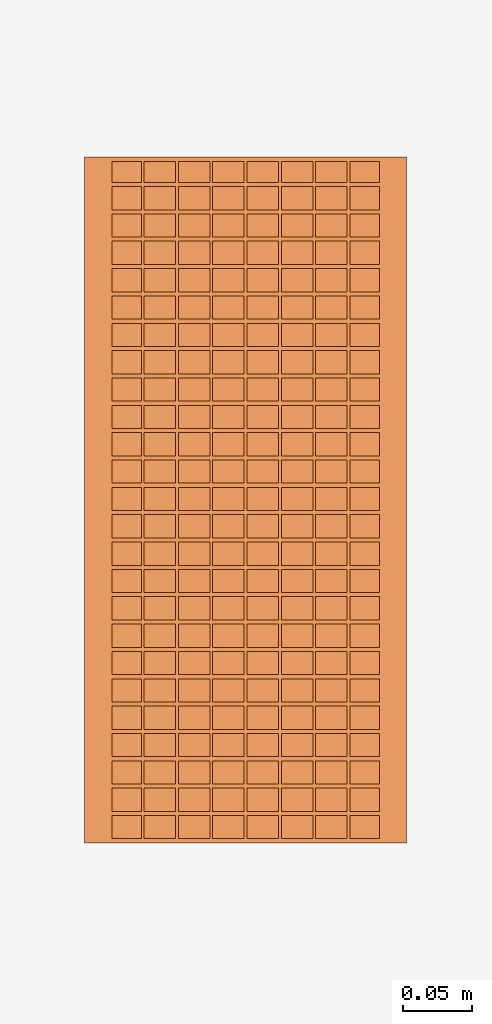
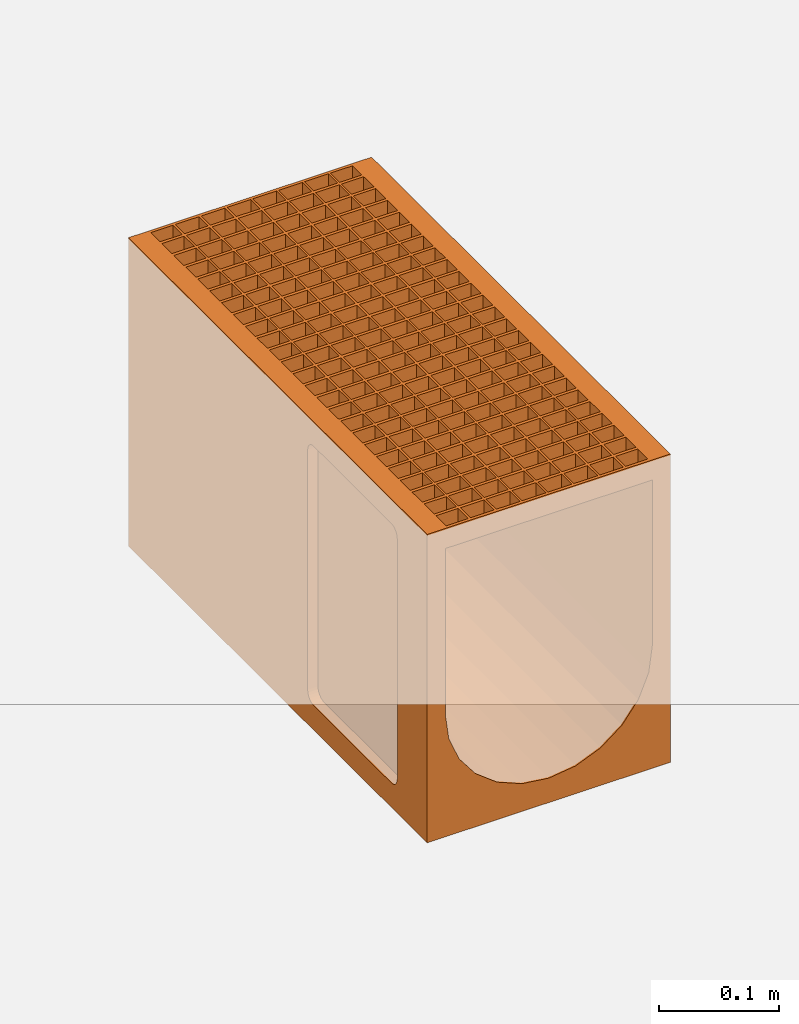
# One storey, part 2 of 2: 1 proxy.
"""IFC2X3 building model written with IfcOpenShell, lengths in millimetres."""

from ifc_helpers import new_model, entity, si_unit, converted_unit, direction, frame, origin, place, context, subcontext, project, spatial, faceted_brep, source, transform, mapped, material, material_list, element, save


model = new_model("IFC2X3")

# Units and contexts
model_context = context("Model", 3, precision=1e-06, world=origin(), true_north=direction((2.0, 6.12303176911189e-17, 1.0)))
context_of_model = context(None, 3, precision=1e-06, world=origin(), true_north=direction((2.0, 6.12303176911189e-17, 1.0)))
body_context = subcontext(model_context, "Body", "Model", "MODEL_VIEW")
ifc_project = project(units=[si_unit("LENGTHUNIT", "METRE", prefix="MILLI"), si_unit("AREAUNIT", "SQUARE_METRE", prefix="MILLI"), si_unit("VOLUMEUNIT", "CUBIC_METRE", prefix="MILLI"), converted_unit("PLANEANGLEUNIT", "DEGREE", entity("IfcRatioMeasure", 0.0174532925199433), si_unit("PLANEANGLEUNIT", "RADIAN"), dimensions=[0, 0, 0, 0, 0, 0, 0]), si_unit("TIMEUNIT", "SECOND")], contexts=[model_context, context_of_model])

# Site, building, storey
site_placement = place(None, origin())
site = spatial("IfcSite", under=ifc_project, at=site_placement, Name="Default", CompositionType="ELEMENT")
building_placement = place(site_placement, origin())
building = spatial("IfcBuilding", under=site, at=building_placement, CompositionType="ELEMENT")
storey_placement = place(building_placement, origin())
storey = spatial("IfcBuildingStorey", under=building, at=storey_placement, Name="Level 1", CompositionType="ELEMENT", Elevation=0.0)

# Proxy
ifc_material = material(Name="Vienite® Synthetic Resin Concrete")
ifc_material_list = material_list([ifc_material])
shared_shape = source(origin(), body_context, "Body", "Brep", [
    faceted_brep([(-97.5000000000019, 497.0, 0.0), (97.4999999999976, 497.0, 0.0), (97.4999999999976, 500.0, 0.0), (-97.5000000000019, 500.0, 0.0), (-97.5000000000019, 500.0, -20.5000000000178), (97.4999999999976, 500.0, -20.5000000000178), (97.4999999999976, 497.0, -20.5000000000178), (-97.5000000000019, 497.0, -20.5000000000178)], [[[0, 1, 2, 3]], [[4, 5, 6, 7]], [[2, 1, 6, 5]], [[4, 3, 2, 5]], [[0, 3, 4, 7]], [[6, 1, 0, 7]]]),
    faceted_brep([(-97.5000000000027, 3.0, -20.5000000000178), (97.4999999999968, 3.0, -20.5000000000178), (97.4999999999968, 0.0, -20.5000000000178), (-97.5000000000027, 0.0, -20.5000000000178), (-97.5000000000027, 0.0, 0.0), (97.4999999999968, 0.0, 0.0), (97.4999999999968, 3.0, 0.0), (-97.5000000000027, 3.0, 0.0)], [[[0, 1, 2, 3]], [[4, 5, 6, 7]], [[6, 5, 2, 1]], [[3, 4, 7, 0]], [[2, 5, 4, 3]], [[0, 7, 6, 1]]]),
    faceted_brep([(-97.5000000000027, 19.9400000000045, 0.0), (97.4999999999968, 19.9400000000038, 0.0), (97.4999999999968, 22.9400000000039, 0.0), (-97.5000000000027, 22.9400000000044, 0.0), (-97.5000000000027, 22.9400000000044, -20.5000000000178), (97.4999999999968, 22.9400000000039, -20.5000000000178), (97.4999999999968, 19.9400000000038, -20.5000000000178), (-97.5000000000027, 19.9400000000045, -20.5000000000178)], [[[0, 1, 2, 3]], [[4, 5, 6, 7]], [[2, 1, 6, 5]], [[4, 3, 2, 5]], [[7, 0, 3, 4]], [[6, 1, 0, 7]]]),
    faceted_brep([(-97.5000000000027, 39.8800000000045, 0.0), (97.4999999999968, 39.8800000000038, 0.0), (97.4999999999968, 42.8800000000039, 0.0), (-97.5000000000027, 42.8800000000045, 0.0), (-97.5000000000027, 42.8800000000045, -20.5000000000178), (97.4999999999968, 42.8800000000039, -20.5000000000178), (97.4999999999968, 39.8800000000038, -20.5000000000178), (-97.5000000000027, 39.8800000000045, -20.5000000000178)], [[[0, 1, 2, 3]], [[4, 5, 6, 7]], [[2, 1, 6, 5]], [[4, 3, 2, 5]], [[7, 0, 3, 4]], [[6, 1, 0, 7]]]),
    faceted_brep([(-97.5000000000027, 59.8200000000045, 0.0), (97.4999999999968, 59.8200000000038, 0.0), (97.4999999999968, 62.8200000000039, 0.0), (-97.5000000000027, 62.8200000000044, 0.0), (-97.5000000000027, 62.8200000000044, -20.5000000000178), (97.4999999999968, 62.8200000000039, -20.5000000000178), (97.4999999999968, 59.8200000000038, -20.5000000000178), (-97.5000000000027, 59.8200000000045, -20.5000000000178)], [[[0, 1, 2, 3]], [[4, 5, 6, 7]], [[2, 1, 6, 5]], [[4, 3, 2, 5]], [[7, 0, 3, 4]], [[6, 1, 0, 7]]]),
    faceted_brep([(-97.5000000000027, 79.7600000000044, 0.0), (97.4999999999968, 79.7600000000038, 0.0), (97.4999999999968, 82.7600000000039, 0.0), (-97.5000000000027, 82.7600000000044, 0.0), (-97.5000000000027, 79.7600000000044, -20.5000000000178), (-97.5000000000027, 82.7600000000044, -20.5000000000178), (97.4999999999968, 82.7600000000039, -20.5000000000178), (97.4999999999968, 79.7600000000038, -20.5000000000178)], [[[0, 1, 2, 3]], [[4, 5, 6, 7]], [[2, 1, 7, 6]], [[5, 3, 2, 6]], [[0, 3, 5, 4]], [[7, 1, 0, 4]]]),
    faceted_brep([(-97.5000000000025, 99.7000000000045, 0.0), (97.4999999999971, 99.7000000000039, 0.0), (97.4999999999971, 102.700000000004, 0.0), (-97.5000000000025, 102.700000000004, 0.0), (-97.5000000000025, 99.7000000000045, -20.5000000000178), (-97.5000000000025, 102.700000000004, -20.5000000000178), (97.4999999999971, 102.700000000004, -20.5000000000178), (97.4999999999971, 99.7000000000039, -20.5000000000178)], [[[0, 1, 2, 3]], [[4, 5, 6, 7]], [[2, 1, 7, 6]], [[5, 3, 2, 6]], [[0, 3, 5, 4]], [[7, 1, 0, 4]]]),
    faceted_brep([(-97.5000000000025, 119.640000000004, 0.0), (97.4999999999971, 119.640000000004, 0.0), (97.4999999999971, 122.640000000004, 0.0), (-97.5000000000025, 122.640000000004, 0.0), (-97.5000000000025, 119.640000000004, -20.5000000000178), (-97.5000000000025, 122.640000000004, -20.5000000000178), (97.4999999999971, 122.640000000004, -20.5000000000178), (97.4999999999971, 119.640000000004, -20.5000000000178)], [[[0, 1, 2, 3]], [[4, 5, 6, 7]], [[2, 1, 7, 6]], [[5, 3, 2, 6]], [[0, 3, 5, 4]], [[7, 1, 0, 4]]]),
    faceted_brep([(-97.5000000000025, 139.580000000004, 0.0), (97.4999999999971, 139.580000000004, 0.0), (97.4999999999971, 142.580000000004, 0.0), (-97.5000000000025, 142.580000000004, 0.0), (-97.5000000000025, 139.580000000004, -20.5000000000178), (-97.5000000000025, 142.580000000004, -20.5000000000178), (97.4999999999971, 142.580000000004, -20.5000000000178), (97.4999999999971, 139.580000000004, -20.5000000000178)], [[[0, 1, 2, 3]], [[4, 5, 6, 7]], [[2, 1, 7, 6]], [[5, 3, 2, 6]], [[0, 3, 5, 4]], [[7, 1, 0, 4]]]),
    faceted_brep([(-97.5000000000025, 159.520000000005, 0.0), (97.4999999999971, 159.520000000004, 0.0), (97.4999999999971, 162.520000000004, 0.0), (-97.5000000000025, 162.520000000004, 0.0), (-97.5000000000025, 159.520000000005, -20.5000000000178), (-97.5000000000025, 162.520000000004, -20.5000000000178), (97.4999999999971, 162.520000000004, -20.5000000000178), (97.4999999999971, 159.520000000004, -20.5000000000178)], [[[0, 1, 2, 3]], [[4, 5, 6, 7]], [[6, 2, 1, 7]], [[5, 3, 2, 6]], [[0, 3, 5, 4]], [[7, 1, 0, 4]]]),
    faceted_brep([(-97.5000000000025, 179.460000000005, 0.0), (97.4999999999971, 179.460000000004, 0.0), (97.4999999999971, 182.460000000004, 0.0), (-97.5000000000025, 182.460000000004, 0.0), (-97.5000000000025, 179.460000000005, -20.5000000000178), (-97.5000000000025, 182.460000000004, -20.5000000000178), (97.4999999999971, 182.460000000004, -20.5000000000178), (97.4999999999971, 179.460000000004, -20.5000000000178)], [[[0, 1, 2, 3]], [[4, 5, 6, 7]], [[6, 2, 1, 7]], [[5, 3, 2, 6]], [[0, 3, 5, 4]], [[7, 1, 0, 4]]]),
    faceted_brep([(-97.5000000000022, 199.400000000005, 0.0), (97.4999999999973, 199.400000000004, 0.0), (97.4999999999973, 202.400000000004, 0.0), (-97.5000000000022, 202.400000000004, 0.0), (-97.5000000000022, 199.400000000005, -20.5000000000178), (-97.5000000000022, 202.400000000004, -20.5000000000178), (97.4999999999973, 202.400000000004, -20.5000000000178), (97.4999999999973, 199.400000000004, -20.5000000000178)], [[[0, 1, 2, 3]], [[4, 5, 6, 7]], [[6, 2, 1, 7]], [[5, 3, 2, 6]], [[0, 3, 5, 4]], [[7, 1, 0, 4]]]),
    faceted_brep([(-97.5000000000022, 219.340000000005, 0.0), (97.4999999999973, 219.340000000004, 0.0), (97.4999999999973, 222.340000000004, 0.0), (-97.5000000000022, 222.340000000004, 0.0), (-97.5000000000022, 219.340000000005, -20.5000000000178), (-97.5000000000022, 222.340000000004, -20.5000000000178), (97.4999999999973, 222.340000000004, -20.5000000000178), (97.4999999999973, 219.340000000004, -20.5000000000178)], [[[0, 1, 2, 3]], [[4, 5, 6, 7]], [[6, 2, 1, 7]], [[5, 3, 2, 6]], [[0, 3, 5, 4]], [[7, 1, 0, 4]]]),
    faceted_brep([(-97.5000000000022, 239.280000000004, 0.0), (97.4999999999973, 239.280000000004, 0.0), (97.4999999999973, 242.280000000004, 0.0), (-97.5000000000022, 242.280000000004, 0.0), (-97.5000000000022, 239.280000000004, -20.5000000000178), (-97.5000000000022, 242.280000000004, -20.5000000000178), (97.4999999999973, 242.280000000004, -20.5000000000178), (97.4999999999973, 239.280000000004, -20.5000000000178)], [[[0, 1, 2, 3]], [[4, 5, 6, 7]], [[6, 2, 1, 7]], [[5, 3, 2, 6]], [[0, 3, 5, 4]], [[7, 1, 0, 4]]]),
    faceted_brep([(-97.5000000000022, 259.220000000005, 0.0), (97.4999999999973, 259.220000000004, 0.0), (97.4999999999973, 262.220000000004, 0.0), (-97.5000000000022, 262.220000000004, 0.0), (-97.5000000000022, 259.220000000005, -20.5000000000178), (-97.5000000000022, 262.220000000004, -20.5000000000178), (97.4999999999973, 262.220000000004, -20.5000000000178), (97.4999999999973, 259.220000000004, -20.5000000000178)], [[[0, 1, 2, 3]], [[4, 5, 6, 7]], [[6, 2, 1, 7]], [[5, 3, 2, 6]], [[0, 3, 5, 4]], [[7, 1, 0, 4]]]),
    faceted_brep([(-97.5000000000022, 279.160000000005, 0.0), (97.4999999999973, 279.160000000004, 0.0), (97.4999999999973, 282.160000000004, 0.0), (-97.5000000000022, 282.160000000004, 0.0), (-97.5000000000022, 279.160000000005, -20.5000000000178), (-97.5000000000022, 282.160000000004, -20.5000000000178), (97.4999999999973, 282.160000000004, -20.5000000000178), (97.4999999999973, 279.160000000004, -20.5000000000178)], [[[0, 1, 2, 3]], [[4, 5, 6, 7]], [[6, 2, 1, 7]], [[5, 3, 2, 6]], [[0, 3, 5, 4]], [[7, 1, 0, 4]]]),
    faceted_brep([(-97.5000000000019, 299.100000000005, 0.0), (97.4999999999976, 299.100000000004, 0.0), (97.4999999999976, 302.100000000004, 0.0), (-97.5000000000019, 302.100000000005, 0.0), (-97.5000000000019, 299.100000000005, -20.5000000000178), (-97.5000000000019, 302.100000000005, -20.5000000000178), (97.4999999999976, 302.100000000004, -20.5000000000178), (97.4999999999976, 299.100000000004, -20.5000000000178)], [[[0, 1, 2, 3]], [[4, 5, 6, 7]], [[6, 2, 1, 7]], [[5, 3, 2, 6]], [[0, 3, 5, 4]], [[7, 1, 0, 4]]]),
    faceted_brep([(-97.5000000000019, 319.040000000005, 0.0), (97.4999999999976, 319.040000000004, 0.0), (97.4999999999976, 322.040000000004, 0.0), (-97.5000000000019, 322.040000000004, 0.0), (-97.5000000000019, 322.040000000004, -20.5000000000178), (97.4999999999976, 322.040000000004, -20.5000000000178), (97.4999999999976, 319.040000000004, -20.5000000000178), (-97.5000000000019, 319.040000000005, -20.5000000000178)], [[[0, 1, 2, 3]], [[4, 5, 6, 7]], [[2, 1, 6, 5]], [[4, 3, 2, 5]], [[0, 3, 4, 7]], [[6, 1, 0, 7]]]),
    faceted_brep([(-97.5000000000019, 341.980000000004, -20.5000000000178), (97.4999999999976, 341.980000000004, -20.5000000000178), (97.4999999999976, 338.980000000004, -20.5000000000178), (-97.5000000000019, 338.980000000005, -20.5000000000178), (-97.5000000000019, 338.980000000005, 0.0), (97.4999999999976, 338.980000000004, 0.0), (97.4999999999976, 341.980000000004, 0.0), (-97.5000000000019, 341.980000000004, 0.0)], [[[0, 1, 2, 3]], [[4, 5, 6, 7]], [[6, 5, 2, 1]], [[0, 7, 6, 1]], [[4, 7, 0, 3]], [[2, 5, 4, 3]]]),
    faceted_brep([(-97.5000000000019, 361.920000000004, -20.5000000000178), (97.4999999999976, 361.920000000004, -20.5000000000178), (97.4999999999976, 358.920000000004, -20.5000000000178), (-97.5000000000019, 358.920000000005, -20.5000000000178), (-97.5000000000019, 358.920000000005, 0.0), (97.4999999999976, 358.920000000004, 0.0), (97.4999999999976, 361.920000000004, 0.0), (-97.5000000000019, 361.920000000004, 0.0)], [[[0, 1, 2, 3]], [[4, 5, 6, 7]], [[6, 5, 2, 1]], [[0, 7, 6, 1]], [[4, 7, 0, 3]], [[2, 5, 4, 3]]]),
    faceted_brep([(-97.5000000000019, 378.860000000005, 0.0), (97.4999999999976, 378.860000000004, 0.0), (97.4999999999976, 381.860000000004, 0.0), (-97.5000000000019, 381.860000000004, 0.0), (-97.5000000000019, 381.860000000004, -20.5000000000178), (97.4999999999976, 381.860000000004, -20.5000000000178), (97.4999999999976, 378.860000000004, -20.5000000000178), (-97.5000000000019, 378.860000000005, -20.5000000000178)], [[[0, 1, 2, 3]], [[4, 5, 6, 7]], [[2, 1, 6, 5]], [[4, 3, 2, 5]], [[0, 3, 4, 7]], [[6, 1, 0, 7]]]),
    faceted_brep([(-97.5000000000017, 401.800000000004, -20.5000000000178), (97.4999999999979, 401.800000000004, -20.5000000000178), (97.4999999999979, 398.800000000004, -20.5000000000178), (-97.5000000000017, 398.800000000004, -20.5000000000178), (-97.5000000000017, 398.800000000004, 0.0), (97.4999999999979, 398.800000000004, 0.0), (97.4999999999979, 401.800000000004, 0.0), (-97.5000000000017, 401.800000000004, 0.0)], [[[0, 1, 2, 3]], [[4, 5, 6, 7]], [[6, 5, 2, 1]], [[0, 7, 6, 1]], [[4, 7, 0, 3]], [[2, 5, 4, 3]]]),
    faceted_brep([(-97.5000000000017, 421.740000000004, -20.5000000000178), (97.4999999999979, 421.740000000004, -20.5000000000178), (97.4999999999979, 418.740000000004, -20.5000000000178), (-97.5000000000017, 418.740000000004, -20.5000000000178), (-97.5000000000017, 418.740000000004, 0.0), (97.4999999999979, 418.740000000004, 0.0), (97.4999999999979, 421.740000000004, 0.0), (-97.5000000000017, 421.740000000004, 0.0)], [[[0, 1, 2, 3]], [[4, 5, 6, 7]], [[6, 5, 2, 1]], [[0, 7, 6, 1]], [[4, 7, 0, 3]], [[2, 5, 4, 3]]]),
    faceted_brep([(-97.5000000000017, 441.680000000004, -20.5000000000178), (97.4999999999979, 441.680000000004, -20.5000000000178), (97.4999999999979, 438.680000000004, -20.5000000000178), (-97.5000000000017, 438.680000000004, -20.5000000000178), (-97.5000000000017, 438.680000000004, 0.0), (97.4999999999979, 438.680000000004, 0.0), (97.4999999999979, 441.680000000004, 0.0), (-97.5000000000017, 441.680000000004, 0.0)], [[[0, 1, 2, 3]], [[4, 5, 6, 7]], [[6, 5, 2, 1]], [[0, 7, 6, 1]], [[4, 7, 0, 3]], [[2, 5, 4, 3]]]),
    faceted_brep([(-97.5000000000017, 461.620000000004, -20.5000000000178), (97.4999999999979, 461.620000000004, -20.5000000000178), (97.4999999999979, 458.620000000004, -20.5000000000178), (-97.5000000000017, 458.620000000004, -20.5000000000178), (-97.5000000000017, 458.620000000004, 0.0), (97.4999999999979, 458.620000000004, 0.0), (97.4999999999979, 461.620000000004, 0.0), (-97.5000000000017, 461.620000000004, 0.0)], [[[0, 1, 2, 3]], [[4, 5, 6, 7]], [[6, 5, 2, 1]], [[0, 7, 6, 1]], [[4, 7, 0, 3]], [[2, 5, 4, 3]]]),
    faceted_brep([(-97.5000000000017, 481.560000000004, -20.5000000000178), (97.4999999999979, 481.560000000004, -20.5000000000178), (97.4999999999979, 478.560000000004, -20.5000000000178), (-97.5000000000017, 478.560000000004, -20.5000000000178), (-97.5000000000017, 478.560000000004, 0.0), (97.4999999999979, 478.560000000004, 0.0), (97.4999999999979, 481.560000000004, 0.0), (-97.5000000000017, 481.560000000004, 0.0)], [[[0, 1, 2, 3]], [[4, 5, 6, 7]], [[6, 5, 2, 1]], [[0, 7, 6, 1]], [[4, 7, 0, 3]], [[2, 5, 4, 3]]]),
    faceted_brep([(97.4999999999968, 0.0, 0.0), (97.4999999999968, 0.0, -20.5000000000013), (113.249999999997, 0.0, -20.5000000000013), (113.249999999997, 0.0, 0.0), (97.4999999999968, 500.0, 0.0), (113.249999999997, 500.0, 0.0), (113.249999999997, 500.0, -20.5000000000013), (97.4999999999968, 500.0, -20.5000000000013)], [[[0, 1, 2, 3]], [[4, 5, 6, 7]], [[7, 1, 0, 4]], [[2, 1, 7, 6]], [[5, 3, 2, 6]], [[0, 3, 5, 4]]]),
    faceted_brep([(-97.5000000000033, 500.0, 0.0), (-97.5000000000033, 500.0, -20.5000000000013), (-113.250000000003, 500.0, -20.5000000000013), (-113.250000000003, 500.0, 0.0), (-97.5000000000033, 0.0, 0.0), (-113.250000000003, 0.0, 0.0), (-113.250000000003, 0.0, -20.5000000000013), (-97.5000000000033, 0.0, -20.5000000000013)], [[[0, 1, 2, 3]], [[4, 5, 6, 7]], [[5, 4, 0, 3]], [[2, 6, 5, 3]], [[7, 6, 2, 1]], [[0, 4, 7, 1]]]),
    faceted_brep([(-49.0, 500.0, 0.0), (-49.0, 500.0, -20.5000000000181), (-51.0, 500.0, -20.5000000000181), (-51.0, 500.0, 0.0), (-49.0, 0.0, 0.0), (-51.0, 0.0, 0.0), (-51.0, 0.0, -20.5000000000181), (-49.0, 0.0, -20.5000000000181)], [[[0, 1, 2, 3]], [[4, 5, 6, 7]], [[1, 7, 6, 2]], [[0, 4, 7, 1]], [[3, 5, 4, 0]], [[2, 6, 5, 3]]]),
    faceted_brep([(51.0, 0.0, 0.0), (49.0, 0.0, 0.0), (49.0, 0.0, -20.5000000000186), (51.0, 0.0, -20.5000000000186), (51.0, 500.0, 0.0), (51.0, 500.0, -20.5000000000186), (49.0, 500.0, -20.5000000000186), (49.0, 500.0, 0.0)], [[[0, 1, 2, 3]], [[4, 5, 6, 7]], [[0, 3, 5, 4]], [[7, 1, 0, 4]], [[2, 1, 7, 6]], [[5, 3, 2, 6]]]),
    faceted_brep([(-24.0, 500.0, 0.0), (-24.0, 500.0, -20.5000000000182), (-26.0, 500.0, -20.5000000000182), (-26.0, 500.0, 0.0), (-24.0, 0.0, 0.0), (-26.0, 0.0, 0.0), (-26.0, 0.0, -20.5000000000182), (-24.0, 0.0, -20.5000000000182)], [[[0, 1, 2, 3]], [[4, 5, 6, 7]], [[1, 7, 6, 2]], [[0, 4, 7, 1]], [[3, 5, 4, 0]], [[2, 6, 5, 3]]]),
    faceted_brep([(1.0, 500.0, 0.0), (1.0, 500.0, -20.5000000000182), (-1.0, 500.0, -20.5000000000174), (-1.0, 500.0, 0.0), (1.0, 0.0, 0.0), (-1.0, 0.0, 0.0), (-1.0, 0.0, -20.5000000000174), (1.0, 0.0, -20.5000000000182)], [[[0, 1, 2, 3]], [[4, 5, 6, 7]], [[1, 7, 6, 2]], [[4, 7, 1, 0]], [[3, 5, 4, 0]], [[2, 6, 5, 3]]]),
    faceted_brep([(26.0, 0.0, 0.0), (24.0, 0.0, 0.0), (24.0, 0.0, -20.5000000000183), (26.0, 0.0, -20.5000000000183), (26.0, 500.0, 0.0), (26.0, 500.0, -20.5000000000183), (24.0, 500.0, -20.5000000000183), (24.0, 500.0, 0.0)], [[[0, 1, 2, 3]], [[4, 5, 6, 7]], [[5, 3, 2, 6]], [[4, 0, 3, 5]], [[7, 1, 0, 4]], [[6, 2, 1, 7]]]),
    faceted_brep([(-74.0, 0.0, 0.0), (-76.0, 0.0, 0.0), (-76.0, 0.0, -20.5000000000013), (-74.0, 0.0, -20.5000000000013), (-74.0, 500.0, 0.0), (-74.0, 500.0, -20.5000000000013), (-76.0, 500.0, -20.5000000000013), (-76.0, 500.0, 0.0)], [[[0, 1, 2, 3]], [[4, 5, 6, 7]], [[5, 3, 2, 6]], [[0, 3, 5, 4]], [[7, 1, 0, 4]], [[6, 2, 1, 7]]]),
    faceted_brep([(76.0, 500.0, 0.0), (76.0, 500.0, -20.5000000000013), (74.0, 500.0, -20.5000000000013), (74.0, 500.0, 0.0), (76.0, 0.0, 0.0), (74.0, 0.0, 0.0), (74.0, 0.0, -20.5000000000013), (76.0, 0.0, -20.5000000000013)], [[[0, 1, 2, 3]], [[4, 5, 6, 7]], [[4, 7, 1, 0]], [[3, 5, 4, 0]], [[2, 6, 5, 3]], [[1, 7, 6, 2]]]),
    faceted_brep([(107.5, 55.0, -288.660254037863), (107.5, 57.4118095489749, -289.659258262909), (107.5, 60.0, -290.0), (107.5, 51.3397459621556, -285.0), (107.5, 50.0, -280.0), (107.5, 50.3407417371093, -282.588190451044), (107.5, 52.9289321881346, -287.071067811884), (107.5, 200.0, -280.0), (107.5, 190.0, -290.0), (107.5, 192.588190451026, -289.659258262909), (107.5, 195.0, -288.660254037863), (107.5, 197.071067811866, -287.071067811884), (107.5, 198.660254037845, -285.0), (107.5, 199.659258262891, -282.588190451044), (107.5, 200.0, -35.0), (107.5, 50.0, -35.0), (107.5, 50.3407417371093, -32.411809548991), (107.5, 52.9289321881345, -27.9289321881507), (107.5, 51.3397459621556, -30.0), (107.5, 57.4118095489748, -25.3407417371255), (107.5, 55.0, -26.3397459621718), (107.5, 60.0, -25.0), (107.5, 190.0, -25.0), (107.5, 199.659258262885, -32.4118095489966), (107.5, 198.660254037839, -30.0), (107.5, 195.0, -26.3397459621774), (107.5, 192.58819045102, -25.3407417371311), (107.5, 197.07106781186, -27.9289321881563), (117.5, 50.0, -35.0), (117.5, 50.0, -280.0), (117.5, 60.0, -25.0), (117.5, 190.0, -25.0), (117.5, 200.0, -35.0), (117.5, 200.0, -280.0), (117.5, 190.0, -290.0), (117.5, 60.0, -290.0), (113.25, 500.0, -20.5000000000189), (113.25, 500.0, 0.0), (117.5, 500.0, 0.0), (117.5, 500.0, -315.0), (100.0, 500.0, -190.0), (100.0, 500.0, -20.5000000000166), (-117.5, 500.0, 0.0), (-113.25, 500.0, 0.0), (-113.25, 500.0, -20.5000000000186), (-117.5, 500.0, -315.0), (-100.0, 500.0, -20.5000000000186), (-100.0, 500.0, -190.0), (96.5925826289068, 500.0, -215.881904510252), (70.7106781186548, 500.0, -260.710678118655), (86.6025403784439, 500.0, -240.0), (50.0, 500.0, -276.602540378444), (0.0, 500.0, -290.0), (25.8819045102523, 500.0, -286.592582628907), (-86.6025403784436, 500.0, -240.0), (-70.7106781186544, 500.0, -260.710678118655), (-96.5925826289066, 500.0, -215.881904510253), (-50.0, 500.0, -276.602540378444), (-25.8819045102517, 500.0, -286.592582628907), (117.5, 0.0, -315.0), (25.8819045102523, 0.0, -286.592582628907), (0.0, 0.0, -290.0), (50.0, 0.0, -276.602540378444), (70.7106781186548, 0.0, -260.710678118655), (86.6025403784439, 0.0, -240.0), (96.5925826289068, 0.0, -215.881904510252), (-25.8819045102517, 0.0, -286.592582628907), (-117.5, 0.0, -315.0), (-50.0, 0.0, -276.602540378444), (-70.7106781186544, 0.0, -260.710678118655), (-86.6025403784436, 0.0, -240.0), (-96.5925826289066, 0.0, -215.881904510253), (100.0, 0.0, -190.0), (113.25, 0.0, -20.5000000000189), (100.0, 0.0, -20.5000000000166), (117.5, 0.0, 0.0), (113.25, 0.0, 0.0), (-100.0, 0.0, -190.0), (-100.0, 0.0, -20.5000000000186), (-113.25, 0.0, -20.5000000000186), (-113.25, 0.0, 0.0), (-117.5, 0.0, 0.0), (-117.5, 51.3397459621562, -30.0), (-117.5, 50.3407417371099, -32.4118095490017), (-117.5, 52.9289321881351, -27.9289321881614), (-117.5, 50.0, -35.0), (-117.5, 50.0, -280.0), (-117.5, 60.0, -25.0), (-117.5, 57.4118095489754, -25.3407417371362), (-117.5, 55.0, -26.3397459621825), (-117.5, 190.0, -25.0), (-117.5, 50.3407417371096, -282.588190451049), (-117.5, 51.3397459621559, -285.0), (-117.5, 52.9289321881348, -287.07106781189), (-117.5, 55.0, -288.660254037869), (-117.5, 57.411809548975, -289.659258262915), (-117.5, 60.0, -290.0), (-117.5, 190.0, -290.0), (-117.5, 192.588190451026, -25.340741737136), (-117.5, 197.071067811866, -27.9289321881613), (-117.5, 195.0, -26.3397459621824), (-117.5, 198.660254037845, -30.0), (-117.5, 199.659258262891, -32.4118095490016), (-117.5, 200.0, -35.0), (-117.5, 195.0, -288.660254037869), (-117.5, 197.071067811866, -287.07106781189), (-117.5, 192.588190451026, -289.659258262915), (-117.5, 199.659258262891, -282.588190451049), (-117.5, 200.0, -280.0), (-117.5, 198.660254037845, -285.0), (-20.7055236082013, 47.7259338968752, -315.0), (0.0, 45.0, -315.0), (-40.0, 55.7179676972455, -315.0), (-77.2740661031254, 104.294476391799, -315.0), (-69.2820323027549, 85.0, -315.0), (-56.5685424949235, 68.4314575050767, -315.0), (-80.0, 125.0, -315.0), (20.705523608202, 47.7259338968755, -315.0), (40.0, 55.7179676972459, -315.0), (56.568542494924, 68.4314575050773, -315.0), (69.2820323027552, 85.0, -315.0), (77.2740661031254, 104.294476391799, -315.0), (80.0, 125.0, -315.0), (77.2740661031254, 145.705523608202, -315.0), (-77.2740661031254, 145.705523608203, -315.0), (-69.2820323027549, 165.0, -315.0), (-56.5685424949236, 181.568542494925, -315.0), (-40.0, 194.282032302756, -315.0), (-20.7055236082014, 202.274066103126, -315.0), (0.0, 205.0, -315.0), (69.2820323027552, 165.0, -315.0), (56.5685424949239, 181.568542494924, -315.0), (20.7055236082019, 202.274066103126, -315.0), (40.0, 194.282032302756, -315.0), (117.5, 51.3397459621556, -285.0), (117.5, 50.3407417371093, -282.588190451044), (117.5, 52.9289321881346, -287.071067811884), (117.5, 57.4118095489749, -289.659258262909), (117.5, 55.0, -288.660254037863), (117.5, 50.3407417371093, -32.411809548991), (117.5, 51.3397459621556, -30.0), (117.5, 52.9289321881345, -27.9289321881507), (117.5, 55.0, -26.3397459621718), (117.5, 57.4118095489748, -25.3407417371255), (117.5, 192.588190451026, -289.659258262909), (117.5, 197.071067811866, -287.071067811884), (117.5, 195.0, -288.660254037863), (117.5, 198.660254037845, -285.0), (117.5, 199.659258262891, -282.588190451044), (117.5, 195.0, -26.3397459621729), (117.5, 197.071067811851, -27.9289321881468), (117.5, 192.588190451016, -25.34074173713), (117.5, 199.65925826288, -32.411809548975), (117.5, 198.66025403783, -30.0), (-107.5, 198.660254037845, -30.0), (-107.5, 199.659258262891, -32.4118095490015), (-107.5, 200.0, -35.0), (-107.5, 192.588190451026, -25.340741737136), (-107.5, 190.0, -25.0), (-107.5, 60.0, -25.0), (-107.5, 195.0, -26.3397459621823), (-107.5, 197.071067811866, -27.9289321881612), (-107.5, 50.0, -280.0), (-107.5, 200.0, -280.0), (-107.5, 190.0, -290.0), (-107.5, 199.659258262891, -282.588190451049), (-107.5, 198.660254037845, -285.0), (-107.5, 192.588190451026, -289.659258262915), (-107.5, 197.071067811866, -287.07106781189), (-107.5, 195.0, -288.660254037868), (-107.5, 50.0, -35.0), (-107.5, 57.4118095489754, -25.3407417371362), (-107.5, 52.9289321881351, -27.9289321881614), (-107.5, 55.0, -26.3397459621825), (-107.5, 51.3397459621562, -30.0), (-107.5, 50.3407417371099, -32.4118095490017), (-107.5, 60.0, -290.0), (-107.5, 57.4118095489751, -289.659258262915), (-107.5, 55.0, -288.660254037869), (-107.5, 51.3397459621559, -285.0), (-107.5, 50.3407417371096, -282.588190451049), (-107.5, 52.9289321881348, -287.07106781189), (-56.5685424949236, 181.568542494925, -305.0), (-40.0, 194.282032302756, -305.0), (-20.7055236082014, 202.274066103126, -305.0), (40.0, 194.282032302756, -305.0), (-80.0, 125.0, -305.0), (-77.2740661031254, 145.705523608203, -305.0), (-69.2820323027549, 165.0, -305.0), (77.2740661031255, 145.705523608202, -305.0), (0.0, 205.0, -305.0), (20.7055236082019, 202.274066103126, -305.0), (56.568542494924, 181.568542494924, -305.0), (69.2820323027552, 165.0, -305.0), (-77.2740661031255, 104.294476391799, -305.0), (80.0, 125.0, -305.0), (-56.5685424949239, 68.4314575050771, -305.0), (-69.2820323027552, 85.0, -305.0), (-40.0, 55.7179676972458, -305.0), (0.0, 45.0, -305.0), (-20.7055236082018, 47.7259338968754, -305.0), (40.0, 55.7179676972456, -305.0), (77.2740661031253, 104.294476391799, -305.0), (69.2820323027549, 85.0, -305.0), (56.5685424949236, 68.4314575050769, -305.0), (20.7055236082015, 47.7259338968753, -305.0)], [[[0, 1, 2, 3]], [[2, 4, 5, 3]], [[3, 6, 0]], [[7, 4, 2, 8]], [[8, 9, 10, 7]], [[11, 12, 13, 10]], [[13, 7, 10]], [[4, 7, 14, 15]], [[16, 15, 17, 18]], [[19, 20, 17, 21]], [[21, 17, 15, 22]], [[14, 23, 24, 22]], [[25, 26, 22, 24]], [[25, 24, 27]], [[22, 15, 14]], [[4, 15, 28, 29]], [[30, 21, 22, 31]], [[32, 14, 7, 33]], [[34, 8, 2, 35]], [[36, 37, 38, 39]], [[40, 41, 36, 39]], [[42, 43, 44, 45]], [[44, 46, 47, 45]], [[40, 39, 48]], [[49, 50, 39]], [[51, 49, 39]], [[52, 53, 39, 45]], [[39, 53, 51]], [[50, 48, 39]], [[54, 55, 45]], [[56, 54, 45]], [[57, 58, 45]], [[45, 58, 52]], [[57, 45, 55]], [[56, 45, 47]], [[59, 60, 61]], [[60, 59, 62]], [[63, 62, 59]], [[64, 63, 59]], [[59, 65, 64]], [[61, 66, 67, 59]], [[67, 66, 68]], [[69, 70, 67]], [[68, 69, 67]], [[67, 70, 71]], [[72, 65, 59]], [[73, 74, 72, 59]], [[75, 76, 73, 59]], [[77, 78, 79, 67]], [[71, 77, 67]], [[79, 80, 81, 67]], [[80, 79, 44, 43]], [[81, 80, 43, 42]], [[81, 82, 83]], [[82, 81, 84]], [[81, 83, 85, 86]], [[87, 88, 81]], [[89, 84, 81]], [[88, 89, 81]], [[90, 87, 81, 42]], [[86, 91, 67, 81]], [[67, 92, 93]], [[92, 67, 91]], [[93, 94, 67]], [[95, 96, 67]], [[94, 95, 67]], [[67, 96, 97]], [[98, 90, 42]], [[99, 100, 42]], [[98, 42, 100]], [[101, 42, 102]], [[42, 101, 99]], [[103, 102, 42, 45]], [[104, 105, 45]], [[97, 106, 45, 67]], [[104, 45, 106]], [[45, 107, 108, 103]], [[109, 45, 105]], [[45, 109, 107]], [[67, 110, 111, 59]], [[110, 67, 112]], [[113, 114, 67]], [[115, 112, 67]], [[114, 115, 67]], [[67, 116, 113]], [[59, 117, 118]], [[117, 59, 111]], [[59, 118, 119]], [[119, 120, 59]], [[121, 122, 59]], [[120, 121, 59]], [[59, 122, 123, 39]], [[124, 116, 67, 45]], [[125, 124, 45]], [[126, 45, 127]], [[45, 126, 125]], [[128, 127, 45]], [[129, 128, 45, 39]], [[130, 131, 39]], [[123, 130, 39]], [[132, 129, 39]], [[133, 39, 131]], [[39, 133, 132]], [[59, 134, 135]], [[134, 59, 136]], [[59, 135, 29, 28]], [[35, 137, 59]], [[138, 136, 59]], [[137, 138, 59]], [[34, 35, 59, 39]], [[28, 139, 75, 59]], [[75, 140, 141]], [[140, 75, 139]], [[141, 142, 75]], [[143, 30, 75]], [[142, 143, 75]], [[75, 30, 31]], [[144, 34, 39]], [[145, 146, 39]], [[144, 39, 146]], [[147, 39, 148]], [[39, 147, 145]], [[33, 148, 39, 38]], [[149, 150, 38]], [[31, 151, 38, 75]], [[149, 38, 151]], [[38, 152, 32, 33]], [[153, 38, 150]], [[38, 153, 152]], [[76, 75, 38, 37]], [[73, 76, 37, 36]], [[41, 74, 73, 36]], [[40, 72, 74, 41]], [[46, 78, 77, 47]], [[79, 78, 46, 44]], [[50, 64, 65, 48]], [[48, 65, 72, 40]], [[51, 62, 63, 49]], [[49, 63, 64, 50]], [[53, 60, 62, 51]], [[60, 53, 52, 61]], [[57, 68, 66, 58]], [[55, 69, 68, 57]], [[56, 71, 70, 54]], [[54, 70, 69, 55]], [[47, 77, 71, 56]], [[58, 66, 61, 52]], [[154, 155, 156, 157]], [[158, 157, 156, 159]], [[157, 160, 161, 154]], [[162, 156, 163, 164]], [[163, 165, 166, 167]], [[166, 168, 169, 167]], [[167, 164, 163]], [[170, 171, 159, 156]], [[172, 173, 171, 174]], [[175, 174, 171, 170]], [[170, 156, 162]], [[176, 177, 178, 162]], [[179, 180, 162, 181]], [[178, 181, 162]], [[176, 162, 164]], [[85, 170, 162, 86]], [[90, 158, 159, 87]], [[108, 163, 156, 103]], [[96, 176, 164, 97]], [[180, 91, 86, 162]], [[179, 92, 91, 180]], [[92, 179, 181, 93]], [[178, 94, 93, 181]], [[177, 95, 94, 178]], [[95, 177, 176, 96]], [[167, 106, 97, 164]], [[169, 104, 106, 167]], [[104, 169, 168, 105]], [[166, 109, 105, 168]], [[165, 107, 109, 166]], [[107, 165, 163, 108]], [[155, 102, 103, 156]], [[154, 101, 102, 155]], [[101, 154, 161, 99]], [[160, 100, 99, 161]], [[157, 98, 100, 160]], [[98, 157, 158, 90]], [[171, 88, 87, 159]], [[173, 89, 88, 171]], [[89, 173, 172, 84]], [[174, 82, 84, 172]], [[175, 83, 82, 174]], [[83, 175, 170, 85]], [[16, 139, 28, 15]], [[18, 140, 139, 16]], [[140, 18, 17, 141]], [[20, 142, 141, 17]], [[19, 143, 142, 20]], [[143, 19, 21, 30]], [[26, 151, 31, 22]], [[25, 149, 151, 26]], [[149, 25, 27, 150]], [[24, 153, 150, 27]], [[23, 152, 153, 24]], [[152, 23, 14, 32]], [[13, 148, 33, 7]], [[12, 147, 148, 13]], [[147, 12, 11, 145]], [[10, 146, 145, 11]], [[9, 144, 146, 10]], [[144, 9, 8, 34]], [[1, 137, 35, 2]], [[0, 138, 137, 1]], [[138, 0, 6, 136]], [[3, 134, 136, 6]], [[5, 135, 134, 3]], [[135, 5, 4, 29]], [[182, 183, 184, 185]], [[182, 186, 187, 188]], [[186, 182, 185, 189]], [[184, 190, 191, 185]], [[185, 192, 193, 189]], [[194, 186, 189, 195]], [[196, 197, 194, 198]], [[199, 200, 198, 201]], [[195, 198, 194]], [[202, 203, 204, 201]], [[195, 202, 201, 198]], [[201, 205, 199]], [[189, 123, 122, 195]], [[193, 130, 123, 189]], [[185, 133, 131, 192]], [[192, 131, 130, 193]], [[191, 132, 133, 185]], [[132, 191, 190, 129]], [[184, 128, 129, 190]], [[183, 127, 128, 184]], [[188, 125, 126, 182]], [[182, 126, 127, 183]], [[187, 124, 125, 188]], [[124, 187, 186, 116]], [[194, 113, 116, 186]], [[197, 114, 113, 194]], [[198, 112, 115, 196]], [[196, 115, 114, 197]], [[200, 110, 112, 198]], [[110, 200, 199, 111]], [[205, 117, 111, 199]], [[201, 118, 117, 205]], [[203, 120, 119, 204]], [[204, 119, 118, 201]], [[202, 121, 120, 203]], [[202, 195, 122, 121]]]),
])
proxy_placement = place(storey_placement, frame((109.609296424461, -1747.00003233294, 0.0)))
element("IfcBuildingElementProxy", 1, at=proxy_placement, inside=storey, material=ifc_material_list, Name="Civil-Drainage-Channel-ACO-MultiDrain-M200DS-Channel-System:24214 - No 10.1J Constant Depth Channel - 500mm LG - Invert Depth 290mm:24214 - No 10.1J Constant Depth Channel - 500mm LG - Invert Depth 290mm", ObjectType="24214 - No 10.1J Constant Depth Channel - 500mm LG - Invert Depth 290mm", CompositionType="ELEMENT", context=body_context, shape_type="MappedRepresentation", body=[
    mapped(shared_shape, transform((0.0, 0.0, 0.0), scale=1.0)),
])

save(model, "model.ifc")
